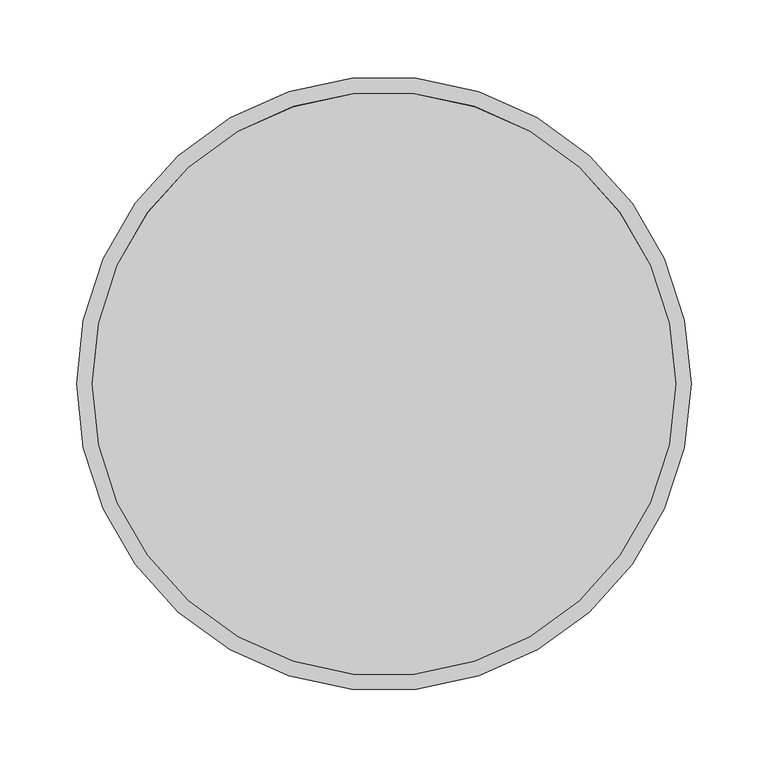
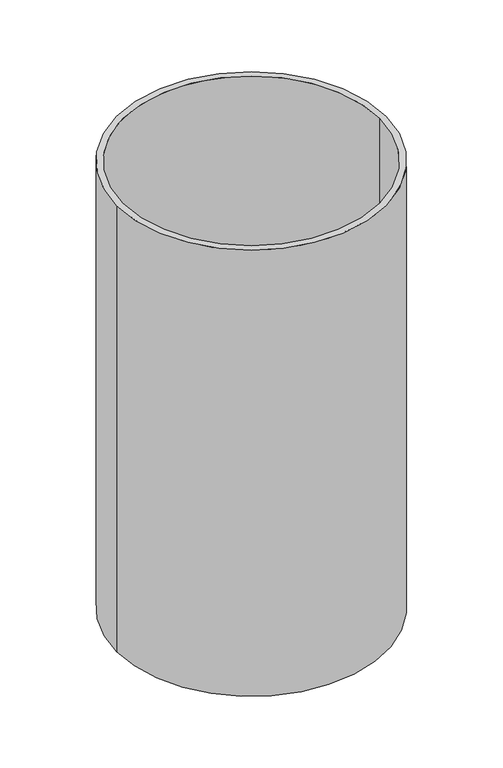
"""IFC4 building model written with IfcOpenShell, lengths in millimetres: furniture geometry, Mobile Ausstattung Abfalleimer : Abfalleimer."""

from ifc_helpers import new_model, si_unit, frame, origin, origin_with_axes, place, context, project, spatial, polyline, circle_curve, source, transform, mapped, element, save
from ifc_brep_helpers import plane_surface, cylinder_surface, revolved_surface, advanced_brep


def furniture_915aded3(model_context):
    return source(origin(), model_context, "Body", "AdvancedBrep", [
        advanced_brep(
        [(-200.0, 0.0, 700.0), (200.0, 0.0, 700.0), (190.0, 0.0, 700.0), (-190.0, 0.0, 700.0), (-200.0, 0.0, 0.0), (200.0, 0.0, 0.0), (-190.0, 0.0, 164.2220205), (190.0, 0.0, 164.2220205)],
        [
            (0, 1, circle_curve(frame((0.0, 0.0, 700.0), z_axis=(0.0, 0.0, 1.0), x_axis=(1.0, 0.0, 0.0)), 200.0)),
            (1, 0, circle_curve(frame((0.0, 0.0, 700.0), z_axis=(0.0, 0.0, 1.0), x_axis=(1.0, 0.0, 0.0)), 200.0)),
            (2, 3, circle_curve(frame((0.0, 0.0, 700.0), z_axis=(0.0, 0.0, -1.0), x_axis=(1.0, 0.0, 0.0)), 190.0)),
            (3, 2, circle_curve(frame((0.0, 0.0, 700.0), z_axis=(0.0, 0.0, -1.0), x_axis=(1.0, 0.0, 0.0)), 190.0)),
            (4, 5, circle_curve(frame((0.0, 0.0, 0.0), z_axis=(0.0, 0.0, -1.0), x_axis=(1.0, 0.0, 0.0)), 200.0)),
            (5, 4, circle_curve(frame((0.0, 0.0, 0.0), z_axis=(0.0, 0.0, -1.0), x_axis=(1.0, 0.0, 0.0)), 200.0)),
            (1, 5),
            (4, 0),
            (6, 7, circle_curve(frame((0.0, 0.0, 164.2220205), z_axis=(0.0, 0.0, 1.0), x_axis=(1.0, 0.0, 0.0)), 190.0)),
            (7, 6, circle_curve(frame((0.0, 0.0, 164.2220205), z_axis=(0.0, 0.0, 1.0), x_axis=(1.0, 0.0, 0.0)), 190.0)),
            (7, 2),
            (3, 6),
        ],
        [
            plane_surface(frame((200.0, 0.0, 700.0), z_axis=(0.0, 0.0, 1.0), x_axis=(0.0, -1.0, 0.0))),
            plane_surface(frame((200.0, 0.0, 0.0), z_axis=(0.0, 0.0, -1.0), x_axis=(0.0, 1.0, 0.0))),
            cylinder_surface(origin_with_axes(), 200.0),
            plane_surface(frame((190.0, 0.0, 164.2220205), z_axis=(0.0, 0.0, 1.0), x_axis=(0.0, 1.0, 0.0))),
            revolved_surface(polyline([(190.0, 0.0, 700.0), (190.0, 0.0, 164.2220205)]), (0.0, 0.0, 164.2220205), (0.0, 0.0, 1.0)),
        ],
        [
            (0, [[1, 2], [3, 4]]),
            (1, [[5, 6]]),
            (2, [[7, -5, 8, -2]]),
            (2, [[-8, -6, -7, -1]]),
            (3, [[9, 10]]),
            (4, [[11, -4, 12, -10]]),
            (4, [[-12, -3, -11, -9]]),
        ],
    ),
    ])


if __name__ == "__main__":
    model = new_model("IFC4")
    model_context = context("Model", 3, world=origin())
    ifc_project = project(units=[si_unit("LENGTHUNIT", "METRE", prefix="MILLI")], contexts=[model_context])
    site = spatial("IfcSite", under=ifc_project)
    building = spatial("IfcBuilding", under=site)
    placement = place(None, origin())
    furniture_shape = furniture_915aded3(model_context)
    element("IfcFurniture", 1, ObjectType="Mobile Ausstattung Abfalleimer : Abfalleimer", at=placement, inside=building, context=model_context, shape_type="MappedRepresentation", body=[
        mapped(furniture_shape, transform((0.0, 0.0, 0.0), x_axis=(1.0, 0.0, 0.0), y_axis=(0.0, 1.0, 0.0), z_axis=(0.0, 0.0, 1.0))),
    ])
    save(model, "model.ifc")
